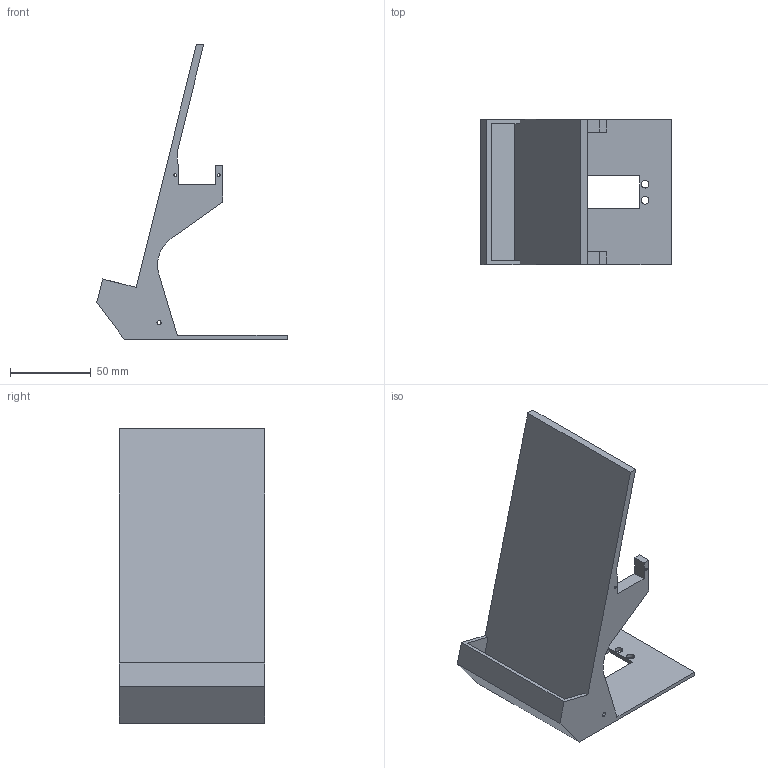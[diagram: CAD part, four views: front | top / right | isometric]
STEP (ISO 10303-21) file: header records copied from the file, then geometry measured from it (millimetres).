
FILE_DESCRIPTION (( 'STEP AP203' ), '1' );
FILE_NAME ('frame robot^no horni bot.STEP', '2024-12-26T18:54:27', ( '' ), ( '' ), 'SwSTEP 2.0', 'SolidWorks 2019', '' );
FILE_SCHEMA (( 'CONFIG_CONTROL_DESIGN' ));
Length unit declared in the file: millimetre
Products named in the file (1): frame robot^no horni bot
Bounding box: 118.05 x 90 x 182.31 mm (x, y, z)
Volume: 144685.9 mm3; surface area: 67829.5 mm2
Topology: 1 solids, 1 shells, 61 faces, 177 edges, 118 vertices
Faces by surface type: plane 35, cylinder 26
Entity records: 2148 total; most frequent: CARTESIAN_POINT 357, ORIENTED_EDGE 354, DIRECTION 353, EDGE_CURVE 177, LINE 125, VECTOR 125, VERTEX_POINT 118, AXIS2_PLACEMENT_3D 114
